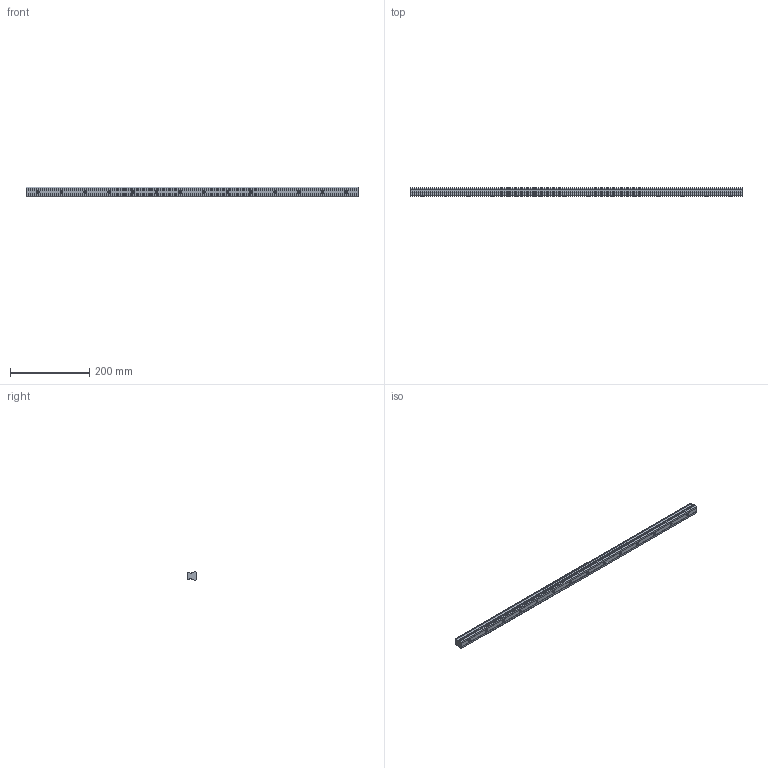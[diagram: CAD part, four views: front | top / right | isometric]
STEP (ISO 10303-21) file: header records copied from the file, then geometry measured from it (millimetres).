
FILE_DESCRIPTION (( 'STEP AP203' ), '1' );
FILE_NAME ('L1018.25R-0840.step', '2023-08-06T10:34:39', ( '' ), ( '' ), 'SwSTEP 2.0', 'SolidWorks 2019', '' );
FILE_SCHEMA (( 'CONFIG_CONTROL_DESIGN' ));
Length unit declared in the file: millimetre
Products named in the file (1): L1018.25R-0840
Bounding box: 840 x 21.8 x 25 mm (x, y, z)
Volume: 349346 mm3; surface area: 84257 mm2
Topology: 1 solids, 1 shells, 155 faces, 361 edges, 208 vertices
Faces by surface type: cylinder 59, cone 56, plane 40
Entity records: 4274 total; most frequent: DIRECTION 791, CARTESIAN_POINT 697, ORIENTED_EDGE 666, EDGE_CURVE 333, AXIS2_PLACEMENT_3D 302, VERTEX_POINT 208, VECTOR 187, LINE 187
